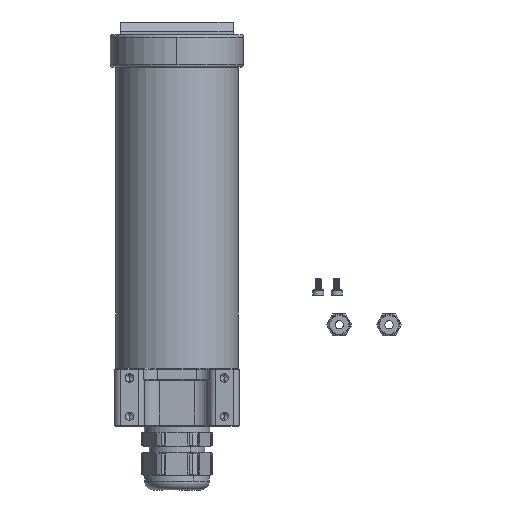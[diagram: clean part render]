
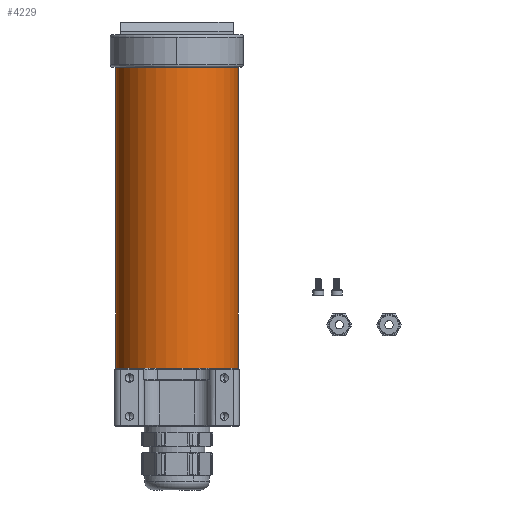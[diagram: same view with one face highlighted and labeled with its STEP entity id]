
A CAD part, front view. The second image highlights one B-rep face of the part: STEP entity #4229.
In plain terms, the highlighted cylindrical face has radius 31.115 mm (diameter 62.23 mm), a partial arc.
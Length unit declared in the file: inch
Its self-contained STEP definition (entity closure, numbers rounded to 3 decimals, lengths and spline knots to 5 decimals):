
#678 = CYLINDRICAL_SURFACE ( 'NONE', #33109, 1.225 ) ;
#873 = DIRECTION ( 'NONE',  ( 0., 0., 1. ) ) ;
#1100 = CARTESIAN_POINT ( 'NONE',  ( -3.2, 0., 1.225 ) ) ;
#1662 = LINE ( 'NONE', #1100, #8503 ) ;
#4229 = ADVANCED_FACE ( 'NONE', ( #15946 ), #678, .T. ) ;
#4673 = AXIS2_PLACEMENT_3D ( 'NONE', #10198, #22295, #33940 ) ;
#6313 = CARTESIAN_POINT ( 'NONE',  ( -2.9, 0., -1.225 ) ) ;
#7168 = CARTESIAN_POINT ( 'NONE',  ( -3.2, 0., 0. ) ) ;
#7415 = EDGE_CURVE ( 'NONE', #11073, #12751, #11629, .T. ) ;
#8497 = EDGE_CURVE ( 'NONE', #32113, #18290, #15947, .T. ) ;
#8503 = VECTOR ( 'NONE', #30776, 39.37008 ) ;
#10198 = CARTESIAN_POINT ( 'NONE',  ( 3.2, 0., 0. ) ) ;
#11073 = VERTEX_POINT ( 'NONE', #6313 ) ;
#11629 = CIRCLE ( 'NONE', #30268, 1.225 ) ;
#11798 = EDGE_CURVE ( 'NONE', #32113, #11073, #13547, .T. ) ;
#12003 = VECTOR ( 'NONE', #37273, 39.37008 ) ;
#12751 = VERTEX_POINT ( 'NONE', #14427 ) ;
#12763 = DIRECTION ( 'NONE',  ( -1., 0., 0. ) ) ;
#13358 = CARTESIAN_POINT ( 'NONE',  ( -3.2, 0., -1.225 ) ) ;
#13547 = LINE ( 'NONE', #13358, #12003 ) ;
#14427 = CARTESIAN_POINT ( 'NONE',  ( -2.9, 0., 1.225 ) ) ;
#15946 = FACE_OUTER_BOUND ( 'NONE', #19194, .T. ) ;
#15947 = CIRCLE ( 'NONE', #4673, 1.225 ) ;
#18133 = ORIENTED_EDGE ( 'NONE', *, *, #19342, .T. ) ;
#18290 = VERTEX_POINT ( 'NONE', #27023 ) ;
#19194 = EDGE_LOOP ( 'NONE', ( #32291, #34773, #18133, #25112 ) ) ;
#19342 = EDGE_CURVE ( 'NONE', #18290, #12751, #1662, .T. ) ;
#22015 = DIRECTION ( 'NONE',  ( -1., 0., 0. ) ) ;
#22295 = DIRECTION ( 'NONE',  ( -1., 0., 0. ) ) ;
#25112 = ORIENTED_EDGE ( 'NONE', *, *, #7415, .F. ) ;
#27023 = CARTESIAN_POINT ( 'NONE',  ( 3.2, 0., 1.225 ) ) ;
#27121 = CARTESIAN_POINT ( 'NONE',  ( 3.2, 0., -1.225 ) ) ;
#28456 = CARTESIAN_POINT ( 'NONE',  ( -2.9, 0., 0. ) ) ;
#30268 = AXIS2_PLACEMENT_3D ( 'NONE', #28456, #12763, #36486 ) ;
#30776 = DIRECTION ( 'NONE',  ( -1., 0., 0. ) ) ;
#32113 = VERTEX_POINT ( 'NONE', #27121 ) ;
#32291 = ORIENTED_EDGE ( 'NONE', *, *, #11798, .F. ) ;
#33109 = AXIS2_PLACEMENT_3D ( 'NONE', #7168, #22015, #873 ) ;
#33940 = DIRECTION ( 'NONE',  ( 0., 0., 1. ) ) ;
#34773 = ORIENTED_EDGE ( 'NONE', *, *, #8497, .T. ) ;
#36486 = DIRECTION ( 'NONE',  ( 0., 0., 1. ) ) ;
#37273 = DIRECTION ( 'NONE',  ( -1., 0., 0. ) ) ;
